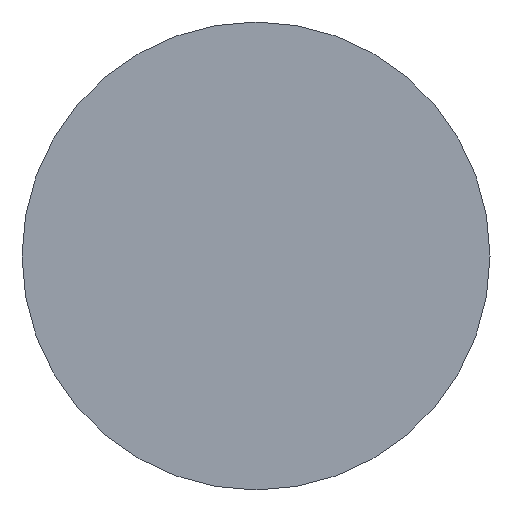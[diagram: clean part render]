
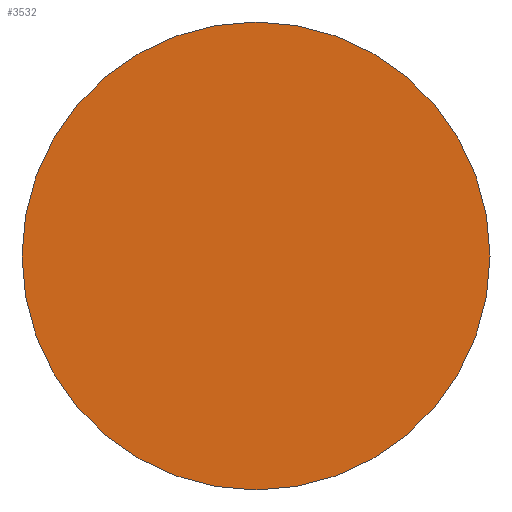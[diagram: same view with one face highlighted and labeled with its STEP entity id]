
A CAD part, front view. The second image highlights one B-rep face of the part: STEP entity #3532.
In plain terms, the highlighted planar face has unit normal (0, -1, 0).
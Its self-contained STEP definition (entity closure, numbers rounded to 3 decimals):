
#672 = VERTEX_POINT ( 'NONE', #3522 ) ;
#844 = ORIENTED_EDGE ( 'NONE', *, *, #1649, .T. ) ;
#902 = CIRCLE ( 'NONE', #3299, 41. ) ;
#1062 = ORIENTED_EDGE ( 'NONE', *, *, #4236, .T. ) ;
#1063 = CIRCLE ( 'NONE', #3722, 41. ) ;
#1361 = VERTEX_POINT ( 'NONE', #2389 ) ;
#1442 = EDGE_LOOP ( 'NONE', ( #1062, #844 ) ) ;
#1450 = CARTESIAN_POINT ( 'NONE',  ( 0., -30., 0. ) ) ;
#1649 = EDGE_CURVE ( 'NONE', #672, #1361, #902, .T. ) ;
#1742 = CARTESIAN_POINT ( 'NONE',  ( 0., -30., 0. ) ) ;
#2003 = FACE_OUTER_BOUND ( 'NONE', #1442, .T. ) ;
#2362 = DIRECTION ( 'NONE',  ( 1., 0., 0. ) ) ;
#2389 = CARTESIAN_POINT ( 'NONE',  ( 41., -30., 0. ) ) ;
#2560 = CARTESIAN_POINT ( 'NONE',  ( 41., -30., 0. ) ) ;
#2579 = DIRECTION ( 'NONE',  ( 1., 0., 0. ) ) ;
#3299 = AXIS2_PLACEMENT_3D ( 'NONE', #1450, #4038, #3392 ) ;
#3318 = AXIS2_PLACEMENT_3D ( 'NONE', #2560, #3319, #2579 ) ;
#3319 = DIRECTION ( 'NONE',  ( 0., -1., 0. ) ) ;
#3330 = DIRECTION ( 'NONE',  ( 0., -1., 0. ) ) ;
#3392 = DIRECTION ( 'NONE',  ( 1., 0., 0. ) ) ;
#3522 = CARTESIAN_POINT ( 'NONE',  ( -41., -30., 0. ) ) ;
#3532 = ADVANCED_FACE ( 'NONE', ( #2003 ), #3616, .T. ) ;
#3616 = PLANE ( 'NONE',  #3318 ) ;
#3722 = AXIS2_PLACEMENT_3D ( 'NONE', #1742, #3330, #2362 ) ;
#4038 = DIRECTION ( 'NONE',  ( 0., -1., 0. ) ) ;
#4236 = EDGE_CURVE ( 'NONE', #1361, #672, #1063, .T. ) ;
